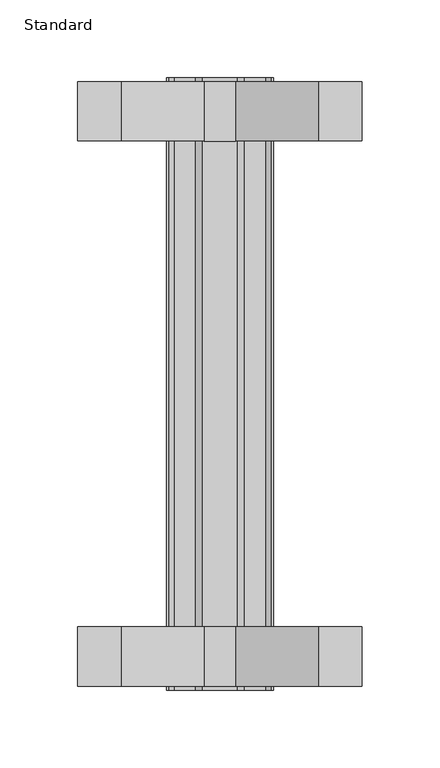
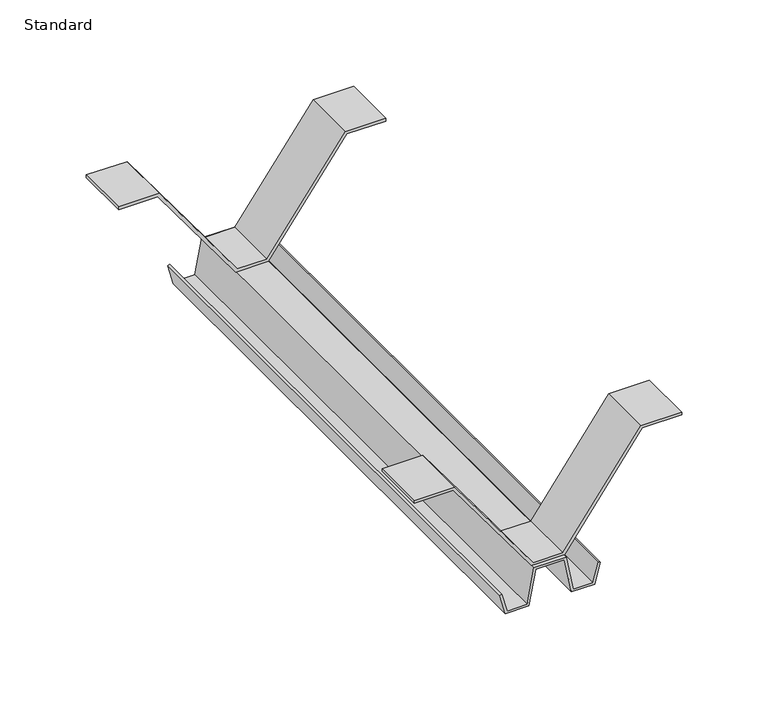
"""IFC4 building model written with IfcOpenShell, lengths in millimetres: electric appliance geometry, Bracket-Floor-Cablofil : Standard."""

from ifc_helpers import new_model, si_unit, frame, origin, place, context, project, spatial, polyline, outline, extrude, source, transform, mapped, element, save


def standard_970344b8(model_context):
    return source(origin(), model_context, "Body", "SweptSolid", [
        extrude(outline(polyline([(99.7, -91.44), (99.7, -64.6459763), (26.3, -11.1233462), (26.3, 11.1233462), (99.7, 64.6459763), (99.7, 91.44), (101.6, 91.44), (101.6, 63.6167946), (28.2, 10.0941645), (28.2, -10.0941645), (101.6, -63.6167946), (101.6, -91.44), (99.7, -91.44)])), frame((0.0, 156.21, 0.0), z_axis=(0.0, 1.0, 0.0), x_axis=(0.0, 0.0, 1.0)), (0.0, 0.0, 1.0), 38.1),
        extrude(outline(polyline([(14.5117714, -34.3894079), (0.0, -30.5009905), (0.0, -14.5100327), (24.8, -9.7600327), (24.8, 9.7600327), (0.0, 14.5100327), (0.0, 30.5009905), (14.5117714, 34.3894079), (14.9, 32.9405192), (1.5, 29.35), (1.5, 15.75), (26.3, 11.0), (26.3, -11.0), (1.5, -15.75), (1.5, -29.35), (14.9, -32.9405192), (14.5117714, -34.3894079)])), frame((0.0, -196.85, 0.0), z_axis=(0.0, 1.0, 0.0), x_axis=(0.0, 0.0, 1.0)), (0.0, 0.0, 1.0), 393.7),
        extrude(outline(polyline([(99.7, -91.44), (99.7, -64.6459763), (26.3, -11.1233462), (26.3, 11.1233462), (99.7, 64.6459763), (99.7, 91.44), (101.6, 91.44), (101.6, 63.6167946), (28.2, 10.0941645), (28.2, -10.0941645), (101.6, -63.6167946), (101.6, -91.44), (99.7, -91.44)])), frame((0.0, -194.31, 0.0), z_axis=(0.0, 1.0, 0.0), x_axis=(0.0, 0.0, 1.0)), (0.0, 0.0, 1.0), 38.1),
    ])


if __name__ == "__main__":
    model = new_model("IFC4")
    model_context = context("Model", 3, world=origin())
    ifc_project = project(units=[si_unit("LENGTHUNIT", "METRE", prefix="MILLI")], contexts=[model_context])
    site = spatial("IfcSite", under=ifc_project)
    building = spatial("IfcBuilding", under=site)
    placement = place(None, origin())
    standard_shape = standard_970344b8(model_context)
    element("IfcElectricAppliance", 1, ObjectType="Bracket-Floor-Cablofil : Standard", at=placement, inside=building, context=model_context, shape_type="MappedRepresentation", body=[
        mapped(standard_shape, transform((0.0, 0.0, 0.0), x_axis=(1.0, 0.0, 0.0), y_axis=(0.0, 1.0, 0.0), z_axis=(0.0, 0.0, 1.0))),
    ])
    save(model, "model.ifc")
